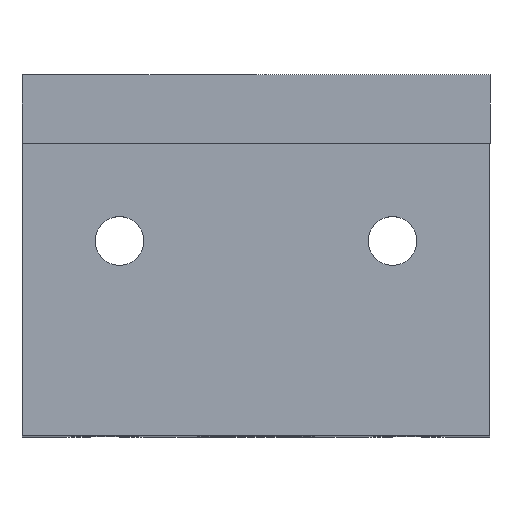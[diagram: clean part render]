
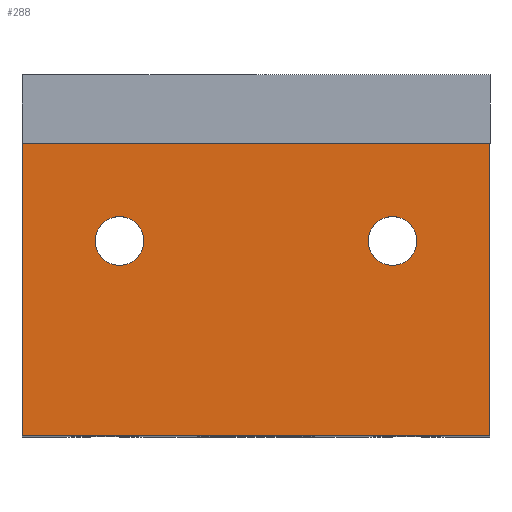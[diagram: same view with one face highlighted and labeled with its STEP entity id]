
A CAD part, top view. The second image highlights one B-rep face of the part: STEP entity #288.
In plain terms, the highlighted planar face has unit normal (0, 0, 1).
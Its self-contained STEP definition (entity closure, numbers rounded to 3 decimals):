
#42 = CARTESIAN_POINT ( 'NONE',  ( -24., 0., 20. ) ) ;
#83 = CARTESIAN_POINT ( 'NONE',  ( 14., 20., 20. ) ) ;
#153 = CIRCLE ( 'NONE', #1975, 2.5 ) ;
#173 = PLANE ( 'NONE',  #620 ) ;
#223 = VECTOR ( 'NONE', #870, 1000. ) ;
#273 = VERTEX_POINT ( 'NONE', #1419 ) ;
#274 = LINE ( 'NONE', #2071, #2917 ) ;
#288 = ADVANCED_FACE ( 'NONE', ( #2088, #2012, #1324 ), #173, .T. ) ;
#303 = VERTEX_POINT ( 'NONE', #1954 ) ;
#340 = DIRECTION ( 'NONE',  ( 1., 0., 0. ) ) ;
#349 = EDGE_LOOP ( 'NONE', ( #409, #2588, #3280, #606 ) ) ;
#409 = ORIENTED_EDGE ( 'NONE', *, *, #2584, .F. ) ;
#447 = CARTESIAN_POINT ( 'NONE',  ( 14., 20., 20. ) ) ;
#480 = CIRCLE ( 'NONE', #2686, 2.5 ) ;
#500 = CARTESIAN_POINT ( 'NONE',  ( -14., 20., 20. ) ) ;
#532 = VERTEX_POINT ( 'NONE', #2771 ) ;
#557 = CIRCLE ( 'NONE', #1740, 2.5 ) ;
#574 = VERTEX_POINT ( 'NONE', #2008 ) ;
#606 = ORIENTED_EDGE ( 'NONE', *, *, #1660, .T. ) ;
#620 = AXIS2_PLACEMENT_3D ( 'NONE', #3238, #925, #2729 ) ;
#649 = ORIENTED_EDGE ( 'NONE', *, *, #2932, .F. ) ;
#660 = VERTEX_POINT ( 'NONE', #1034 ) ;
#693 = DIRECTION ( 'NONE',  ( 1., 0., 0. ) ) ;
#761 = DIRECTION ( 'NONE',  ( 1., 0., 0. ) ) ;
#799 = DIRECTION ( 'NONE',  ( 0., 0., 1. ) ) ;
#870 = DIRECTION ( 'NONE',  ( -1., 0., 0. ) ) ;
#925 = DIRECTION ( 'NONE',  ( 0., 0., 1. ) ) ;
#953 = CARTESIAN_POINT ( 'NONE',  ( 24., 0., 20. ) ) ;
#1034 = CARTESIAN_POINT ( 'NONE',  ( 24., 30., 20. ) ) ;
#1102 = ORIENTED_EDGE ( 'NONE', *, *, #2664, .F. ) ;
#1201 = VERTEX_POINT ( 'NONE', #42 ) ;
#1304 = EDGE_CURVE ( 'NONE', #660, #532, #2253, .T. ) ;
#1324 = FACE_OUTER_BOUND ( 'NONE', #349, .T. ) ;
#1419 = CARTESIAN_POINT ( 'NONE',  ( 11.5, 20., 20. ) ) ;
#1437 = CARTESIAN_POINT ( 'NONE',  ( 0., 0., 20. ) ) ;
#1660 = EDGE_CURVE ( 'NONE', #532, #1201, #274, .T. ) ;
#1695 = ORIENTED_EDGE ( 'NONE', *, *, #2840, .F. ) ;
#1740 = AXIS2_PLACEMENT_3D ( 'NONE', #83, #1858, #340 ) ;
#1747 = DIRECTION ( 'NONE',  ( 0., -1., 0. ) ) ;
#1777 = VERTEX_POINT ( 'NONE', #1859 ) ;
#1857 = EDGE_CURVE ( 'NONE', #574, #273, #480, .T. ) ;
#1858 = DIRECTION ( 'NONE',  ( 0., 0., 1. ) ) ;
#1859 = CARTESIAN_POINT ( 'NONE',  ( -11.5, 20., 20. ) ) ;
#1893 = EDGE_LOOP ( 'NONE', ( #3307, #649 ) ) ;
#1952 = DIRECTION ( 'NONE',  ( -1., 0., 0. ) ) ;
#1954 = CARTESIAN_POINT ( 'NONE',  ( -16.5, 20., 20. ) ) ;
#1975 = AXIS2_PLACEMENT_3D ( 'NONE', #500, #2283, #761 ) ;
#2008 = CARTESIAN_POINT ( 'NONE',  ( 16.5, 20., 20. ) ) ;
#2012 = FACE_BOUND ( 'NONE', #2610, .T. ) ;
#2071 = CARTESIAN_POINT ( 'NONE',  ( -24., 30., 20. ) ) ;
#2088 = FACE_BOUND ( 'NONE', #1893, .T. ) ;
#2222 = DIRECTION ( 'NONE',  ( 0., 0., 1. ) ) ;
#2248 = VERTEX_POINT ( 'NONE', #953 ) ;
#2253 = LINE ( 'NONE', #2405, #223 ) ;
#2265 = VECTOR ( 'NONE', #1952, 1000. ) ;
#2283 = DIRECTION ( 'NONE',  ( 0., 0., 1. ) ) ;
#2284 = EDGE_CURVE ( 'NONE', #660, #2248, #2993, .T. ) ;
#2339 = CARTESIAN_POINT ( 'NONE',  ( -14., 20., 20. ) ) ;
#2340 = DIRECTION ( 'NONE',  ( 0., -1., 0. ) ) ;
#2386 = VECTOR ( 'NONE', #1747, 1000. ) ;
#2405 = CARTESIAN_POINT ( 'NONE',  ( 0., 30., 20. ) ) ;
#2584 = EDGE_CURVE ( 'NONE', #2248, #1201, #2948, .T. ) ;
#2588 = ORIENTED_EDGE ( 'NONE', *, *, #2284, .F. ) ;
#2593 = DIRECTION ( 'NONE',  ( 1., 0., 0. ) ) ;
#2610 = EDGE_LOOP ( 'NONE', ( #1102, #1695 ) ) ;
#2664 = EDGE_CURVE ( 'NONE', #1777, #303, #153, .T. ) ;
#2686 = AXIS2_PLACEMENT_3D ( 'NONE', #447, #2222, #693 ) ;
#2729 = DIRECTION ( 'NONE',  ( 1., 0., 0. ) ) ;
#2769 = CIRCLE ( 'NONE', #3185, 2.5 ) ;
#2771 = CARTESIAN_POINT ( 'NONE',  ( -24., 30., 20. ) ) ;
#2840 = EDGE_CURVE ( 'NONE', #303, #1777, #2769, .T. ) ;
#2917 = VECTOR ( 'NONE', #2340, 1000. ) ;
#2932 = EDGE_CURVE ( 'NONE', #273, #574, #557, .T. ) ;
#2948 = LINE ( 'NONE', #1437, #2265 ) ;
#2993 = LINE ( 'NONE', #3039, #2386 ) ;
#3039 = CARTESIAN_POINT ( 'NONE',  ( 24., 30., 20. ) ) ;
#3185 = AXIS2_PLACEMENT_3D ( 'NONE', #2339, #799, #2593 ) ;
#3238 = CARTESIAN_POINT ( 'NONE',  ( 0., 30., 20. ) ) ;
#3280 = ORIENTED_EDGE ( 'NONE', *, *, #1304, .T. ) ;
#3307 = ORIENTED_EDGE ( 'NONE', *, *, #1857, .F. ) ;
